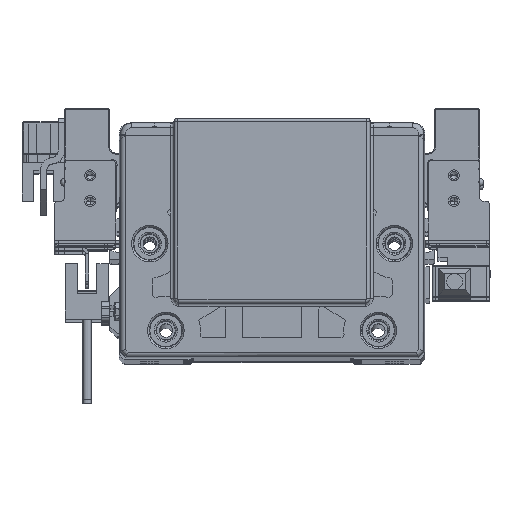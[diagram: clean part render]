
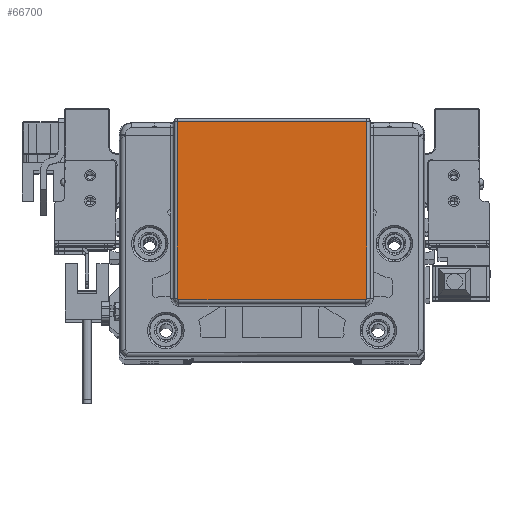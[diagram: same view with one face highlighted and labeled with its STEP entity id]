
A CAD part, top view. The second image highlights one B-rep face of the part: STEP entity #66700.
In plain terms, the highlighted planar face has unit normal (0, 0, 1) as drawn and (0, 0, -1) by its records, which use the part's own axes.
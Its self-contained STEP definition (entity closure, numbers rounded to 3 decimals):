
#2124 = FACE_OUTER_BOUND ( 'NONE', #19290, .T. ) ;
#3012 = VECTOR ( 'NONE', #16387, 1000. ) ;
#4613 = CARTESIAN_POINT ( 'NONE',  ( -29.126, -19.195, -2. ) ) ;
#4935 = CARTESIAN_POINT ( 'NONE',  ( -28.935, -19.232, -2. ) ) ;
#5156 = CARTESIAN_POINT ( 'NONE',  ( 29.286, -19.089, -2. ) ) ;
#6398 = CARTESIAN_POINT ( 'NONE',  ( 29.354, -19.006, -2. ) ) ;
#7076 = CARTESIAN_POINT ( 'NONE',  ( -29.435, 0., -2. ) ) ;
#8431 = CARTESIAN_POINT ( 'NONE',  ( -29.435, -18.732, -2. ) ) ;
#8850 = CARTESIAN_POINT ( 'NONE',  ( -29.383, -18.956, -2. ) ) ;
#8899 = CARTESIAN_POINT ( 'NONE',  ( 28.935, -19.232, -2. ) ) ;
#11511 = CARTESIAN_POINT ( 'NONE',  ( 29.435, 0., -2. ) ) ;
#11837 = CARTESIAN_POINT ( 'NONE',  ( 29.296, -19.079, -2. ) ) ;
#11915 = LINE ( 'NONE', #11511, #72602 ) ;
#12121 = CARTESIAN_POINT ( 'NONE',  ( -29.142, -19.188, -2. ) ) ;
#12243 = CARTESIAN_POINT ( 'NONE',  ( 29.247, -19.124, -2. ) ) ;
#12653 = CARTESIAN_POINT ( 'NONE',  ( 29.427, -18.849, -2. ) ) ;
#13065 = CARTESIAN_POINT ( 'NONE',  ( 29.288, -19.086, -2. ) ) ;
#13097 = ORIENTED_EDGE ( 'NONE', *, *, #42833, .T. ) ;
#14691 = CARTESIAN_POINT ( 'NONE',  ( -29.292, -19.083, -2. ) ) ;
#15516 = CARTESIAN_POINT ( 'NONE',  ( -29.308, -19.065, -2. ) ) ;
#15614 = ORIENTED_EDGE ( 'NONE', *, *, #76196, .T. ) ;
#16387 = DIRECTION ( 'NONE',  ( 1., 0., 0. ) ) ;
#16992 = CARTESIAN_POINT ( 'NONE',  ( 29.435, 36.185, -2. ) ) ;
#17292 = ORIENTED_EDGE ( 'NONE', *, *, #73351, .T. ) ;
#18927 = CARTESIAN_POINT ( 'NONE',  ( 29.391, -18.939, -2. ) ) ;
#19290 = EDGE_LOOP ( 'NONE', ( #15614, #17292, #13097, #37822, #59019, #80920 ) ) ;
#21080 = DIRECTION ( 'NONE',  ( -1., 0., 0. ) ) ;
#22356 = VECTOR ( 'NONE', #21080, 1000. ) ;
#24801 = CARTESIAN_POINT ( 'NONE',  ( 29.395, -18.93, -2. ) ) ;
#25764 = VERTEX_POINT ( 'NONE', #4935 ) ;
#27910 = EDGE_CURVE ( 'NONE', #66208, #72809, #57308, .T. ) ;
#28059 = CARTESIAN_POINT ( 'NONE',  ( -29.18, -19.169, -2. ) ) ;
#28532 = VERTEX_POINT ( 'NONE', #16992 ) ;
#30107 = CARTESIAN_POINT ( 'NONE',  ( -28.935, -19.232, -2. ) ) ;
#31482 = CARTESIAN_POINT ( 'NONE',  ( 29.435, -18.785, -2. ) ) ;
#31760 = LINE ( 'NONE', #7076, #76818 ) ;
#32574 = DIRECTION ( 'NONE',  ( 0., 1., 0. ) ) ;
#33921 = CARTESIAN_POINT ( 'NONE',  ( -29.266, -19.109, -2. ) ) ;
#34339 = CARTESIAN_POINT ( 'NONE',  ( -29.36, -18.998, -2. ) ) ;
#34438 = LINE ( 'NONE', #78364, #22356 ) ;
#34692 = PLANE ( 'NONE',  #54557 ) ;
#35564 = CARTESIAN_POINT ( 'NONE',  ( -29.326, -19.044, -2. ) ) ;
#37318 = CARTESIAN_POINT ( 'NONE',  ( -29.435, -18.732, -2. ) ) ;
#37749 = CARTESIAN_POINT ( 'NONE',  ( 29.372, -18.977, -2. ) ) ;
#37822 = ORIENTED_EDGE ( 'NONE', *, *, #27910, .F. ) ;
#39451 = B_SPLINE_CURVE_WITH_KNOTS ( 'NONE', 3,
 ( #8431, #72807, #41816, #8850, #34339, #35564, #15516, #53563, #61053, #14691, #79082, #53163, #33921, #59827, #59423, #28059, #41016, #68148, #12121, #69406, #4613, #61461, #67742, #74447, #30107 ),
 .UNSPECIFIED., .F., .F.,
 ( 4, 2, 1, 1, 1, 1, 2, 2, 2, 2, 2, 1, 2, 2, 4 ),
 ( 0., 0.25, 0.375, 0.437, 0.469, 0.484, 0.492, 0.5, 0.625, 0.687, 0.719, 0.734, 0.742, 0.75, 1. ),
 .UNSPECIFIED. ) ;
#41016 = CARTESIAN_POINT ( 'NONE',  ( -29.169, -19.175, -2. ) ) ;
#41816 = CARTESIAN_POINT ( 'NONE',  ( -29.421, -18.866, -2. ) ) ;
#42833 = EDGE_CURVE ( 'NONE', #28532, #72809, #11915, .T. ) ;
#43605 = CARTESIAN_POINT ( 'NONE',  ( 29.279, -19.096, -2. ) ) ;
#44016 = CARTESIAN_POINT ( 'NONE',  ( 29.201, -19.157, -2. ) ) ;
#44426 = CARTESIAN_POINT ( 'NONE',  ( 29.397, -18.923, -2. ) ) ;
#46831 = DIRECTION ( 'NONE',  ( -1., 0., 0. ) ) ;
#49473 = CARTESIAN_POINT ( 'NONE',  ( 29.158, -19.18, -2. ) ) ;
#50307 = CARTESIAN_POINT ( 'NONE',  ( 29.003, -19.232, -2. ) ) ;
#50717 = CARTESIAN_POINT ( 'NONE',  ( 29.378, -18.966, -2. ) ) ;
#53163 = CARTESIAN_POINT ( 'NONE',  ( -29.282, -19.093, -2. ) ) ;
#53563 = CARTESIAN_POINT ( 'NONE',  ( -29.299, -19.076, -2. ) ) ;
#53838 = CARTESIAN_POINT ( 'NONE',  ( -29.435, 36.185, -2. ) ) ;
#54557 = AXIS2_PLACEMENT_3D ( 'NONE', #72335, #60176, #46831 ) ;
#55593 = EDGE_CURVE ( 'NONE', #69659, #25764, #39451, .T. ) ;
#56165 = CARTESIAN_POINT ( 'NONE',  ( 29.312, -19.063, -2. ) ) ;
#56989 = CARTESIAN_POINT ( 'NONE',  ( 29.268, -19.105, -2. ) ) ;
#57308 = B_SPLINE_CURVE_WITH_KNOTS ( 'NONE', 3,
 ( #69534, #50307, #63668, #49473, #44016, #12243, #56989, #43605, #69122, #5156, #13065, #11837, #56165, #76233, #6398, #37749, #50717, #62424, #18927, #24801, #44426, #63237, #12653, #31482, #82480 ),
 .UNSPECIFIED., .F., .F.,
 ( 4, 2, 1, 1, 1, 1, 2, 2, 2, 2, 2, 1, 2, 2, 4 ),
 ( 0., 0.25, 0.375, 0.438, 0.469, 0.484, 0.492, 0.5, 0.625, 0.688, 0.719, 0.734, 0.742, 0.75, 1. ),
 .UNSPECIFIED. ) ;
#59019 = ORIENTED_EDGE ( 'NONE', *, *, #65224, .T. ) ;
#59423 = CARTESIAN_POINT ( 'NONE',  ( -29.209, -19.151, -2. ) ) ;
#59827 = CARTESIAN_POINT ( 'NONE',  ( -29.226, -19.14, -2. ) ) ;
#60176 = DIRECTION ( 'NONE',  ( 0., 0., -1. ) ) ;
#61053 = CARTESIAN_POINT ( 'NONE',  ( -29.294, -19.08, -2. ) ) ;
#61461 = CARTESIAN_POINT ( 'NONE',  ( -29.121, -19.196, -2. ) ) ;
#62424 = CARTESIAN_POINT ( 'NONE',  ( 29.386, -18.948, -2. ) ) ;
#63237 = CARTESIAN_POINT ( 'NONE',  ( 29.399, -18.919, -2. ) ) ;
#63668 = CARTESIAN_POINT ( 'NONE',  ( 29.069, -19.218, -2. ) ) ;
#65224 = EDGE_CURVE ( 'NONE', #66208, #25764, #34438, .T. ) ;
#66208 = VERTEX_POINT ( 'NONE', #8899 ) ;
#66700 = ADVANCED_FACE ( 'NONE', ( #2124 ), #34692, .T. ) ;
#67742 = CARTESIAN_POINT ( 'NONE',  ( -29.051, -19.224, -2. ) ) ;
#68148 = CARTESIAN_POINT ( 'NONE',  ( -29.151, -19.183, -2. ) ) ;
#69122 = CARTESIAN_POINT ( 'NONE',  ( 29.283, -19.092, -2. ) ) ;
#69406 = CARTESIAN_POINT ( 'NONE',  ( -29.133, -19.192, -2. ) ) ;
#69534 = CARTESIAN_POINT ( 'NONE',  ( 28.935, -19.232, -2. ) ) ;
#69659 = VERTEX_POINT ( 'NONE', #37318 ) ;
#72237 = CARTESIAN_POINT ( 'NONE',  ( 29.435, -18.732, -2. ) ) ;
#72335 = CARTESIAN_POINT ( 'NONE',  ( 0., 0., -2. ) ) ;
#72602 = VECTOR ( 'NONE', #75490, 1000. ) ;
#72807 = CARTESIAN_POINT ( 'NONE',  ( -29.435, -18.801, -2. ) ) ;
#72809 = VERTEX_POINT ( 'NONE', #72237 ) ;
#73351 = EDGE_CURVE ( 'NONE', #79830, #28532, #78739, .T. ) ;
#73685 = CARTESIAN_POINT ( 'NONE',  ( 0., 36.185, -2. ) ) ;
#74447 = CARTESIAN_POINT ( 'NONE',  ( -28.988, -19.232, -2. ) ) ;
#75490 = DIRECTION ( 'NONE',  ( 0., -1., 0. ) ) ;
#76196 = EDGE_CURVE ( 'NONE', #69659, #79830, #31760, .T. ) ;
#76233 = CARTESIAN_POINT ( 'NONE',  ( 29.343, -19.023, -2. ) ) ;
#76818 = VECTOR ( 'NONE', #32574, 1000. ) ;
#78364 = CARTESIAN_POINT ( 'NONE',  ( 0., -19.232, -2. ) ) ;
#78739 = LINE ( 'NONE', #73685, #3012 ) ;
#79082 = CARTESIAN_POINT ( 'NONE',  ( -29.289, -19.086, -2. ) ) ;
#79830 = VERTEX_POINT ( 'NONE', #53838 ) ;
#80920 = ORIENTED_EDGE ( 'NONE', *, *, #55593, .F. ) ;
#82480 = CARTESIAN_POINT ( 'NONE',  ( 29.435, -18.732, -2. ) ) ;
